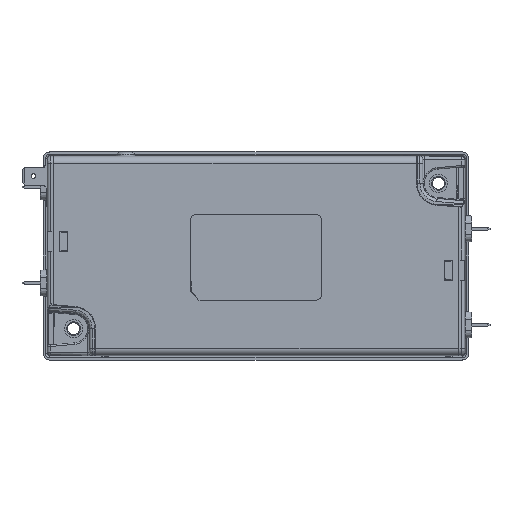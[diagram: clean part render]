
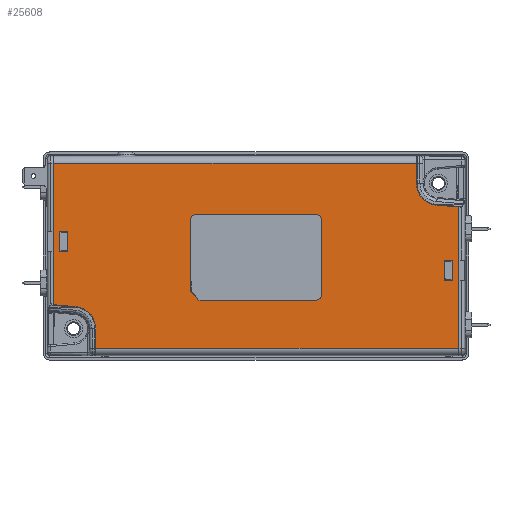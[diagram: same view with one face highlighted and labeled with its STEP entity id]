
A CAD part, top view. The second image highlights one B-rep face of the part: STEP entity #25608.
In plain terms, the highlighted planar face has unit normal (0, 0, 1).
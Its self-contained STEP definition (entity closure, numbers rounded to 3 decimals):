
#914=FACE_BOUND('',#3752,.T.);
#915=FACE_BOUND('',#3753,.T.);
#916=FACE_BOUND('',#3754,.T.);
#999=CIRCLE('',#27085,2.);
#1001=CIRCLE('',#27089,2.);
#1003=CIRCLE('',#27093,2.);
#1004=CIRCLE('',#27099,7.5);
#1005=CIRCLE('',#27100,7.5);
#2287=FACE_OUTER_BOUND('',#3751,.T.);
#3751=EDGE_LOOP('',(#16010,#16011,#16012,#16013,#16014,#16015,#16016,#16017,
#16018,#16019,#16020,#16021));
#3752=EDGE_LOOP('',(#16022,#16023,#16024,#16025));
#3753=EDGE_LOOP('',(#16026,#16027,#16028,#16029));
#3754=EDGE_LOOP('',(#16030,#16031,#16032,#16033,#16034,#16035,#16036,#16037,
#16038,#16039));
#5297=LINE('',#37303,#7613);
#5301=LINE('',#37315,#7617);
#5305=LINE('',#37326,#7621);
#5309=LINE('',#37334,#7625);
#5312=LINE('',#37338,#7628);
#5313=LINE('',#37343,#7629);
#5314=LINE('',#37345,#7630);
#5315=LINE('',#37349,#7631);
#5316=LINE('',#37351,#7632);
#5317=LINE('',#37353,#7633);
#5318=LINE('',#37355,#7634);
#5319=LINE('',#37357,#7635);
#5320=LINE('',#37361,#7636);
#5321=LINE('',#37363,#7637);
#5322=LINE('',#37364,#7638);
#5323=LINE('',#37367,#7639);
#5324=LINE('',#37369,#7640);
#5325=LINE('',#37371,#7641);
#5326=LINE('',#37372,#7642);
#5327=LINE('',#37375,#7643);
#5328=LINE('',#37377,#7644);
#5329=LINE('',#37379,#7645);
#5330=LINE('',#37380,#7646);
#5331=LINE('',#37381,#7647);
#5332=LINE('',#37382,#7648);
#7613=VECTOR('',#29728,10.);
#7617=VECTOR('',#29740,10.);
#7621=VECTOR('',#29752,10.);
#7625=VECTOR('',#29758,10.);
#7628=VECTOR('',#29763,10.);
#7629=VECTOR('',#29768,10.);
#7630=VECTOR('',#29769,10.);
#7631=VECTOR('',#29772,10.);
#7632=VECTOR('',#29773,10.);
#7633=VECTOR('',#29774,10.);
#7634=VECTOR('',#29775,10.);
#7635=VECTOR('',#29776,10.);
#7636=VECTOR('',#29779,10.);
#7637=VECTOR('',#29780,10.);
#7638=VECTOR('',#29781,10.);
#7639=VECTOR('',#29782,10.);
#7640=VECTOR('',#29783,10.);
#7641=VECTOR('',#29784,10.);
#7642=VECTOR('',#29785,10.);
#7643=VECTOR('',#29786,10.);
#7644=VECTOR('',#29787,10.);
#7645=VECTOR('',#29788,10.);
#7646=VECTOR('',#29789,10.);
#7647=VECTOR('',#29790,10.);
#7648=VECTOR('',#29791,10.);
#9921=VERTEX_POINT('',#37280);
#9925=VERTEX_POINT('',#37287);
#9926=VERTEX_POINT('',#37289);
#9929=VERTEX_POINT('',#37296);
#9930=VERTEX_POINT('',#37298);
#9931=VERTEX_POINT('',#37302);
#9934=VERTEX_POINT('',#37310);
#9935=VERTEX_POINT('',#37314);
#9938=VERTEX_POINT('',#37322);
#9941=VERTEX_POINT('',#37333);
#9942=VERTEX_POINT('',#37341);
#9943=VERTEX_POINT('',#37342);
#9944=VERTEX_POINT('',#37344);
#9945=VERTEX_POINT('',#37346);
#9946=VERTEX_POINT('',#37348);
#9947=VERTEX_POINT('',#37350);
#9948=VERTEX_POINT('',#37352);
#9949=VERTEX_POINT('',#37354);
#9950=VERTEX_POINT('',#37356);
#9951=VERTEX_POINT('',#37358);
#9952=VERTEX_POINT('',#37360);
#9953=VERTEX_POINT('',#37362);
#9954=VERTEX_POINT('',#37365);
#9955=VERTEX_POINT('',#37366);
#9956=VERTEX_POINT('',#37368);
#9957=VERTEX_POINT('',#37370);
#9958=VERTEX_POINT('',#37373);
#9959=VERTEX_POINT('',#37374);
#9960=VERTEX_POINT('',#37376);
#9961=VERTEX_POINT('',#37378);
#12236=EDGE_CURVE('',#9930,#9929,#999,.T.);
#12238=EDGE_CURVE('',#9931,#9930,#5297,.T.);
#12242=EDGE_CURVE('',#9934,#9931,#1001,.T.);
#12244=EDGE_CURVE('',#9935,#9934,#5301,.T.);
#12248=EDGE_CURVE('',#9938,#9935,#1003,.T.);
#12250=EDGE_CURVE('',#9921,#9938,#5305,.T.);
#12254=EDGE_CURVE('',#9941,#9925,#5309,.T.);
#12257=EDGE_CURVE('',#9929,#9941,#5312,.T.);
#12258=EDGE_CURVE('',#9942,#9943,#5313,.T.);
#12259=EDGE_CURVE('',#9942,#9944,#5314,.T.);
#12260=EDGE_CURVE('',#9944,#9945,#1004,.T.);
#12261=EDGE_CURVE('',#9945,#9946,#5315,.T.);
#12262=EDGE_CURVE('',#9946,#9947,#5316,.T.);
#12263=EDGE_CURVE('',#9948,#9947,#5317,.T.);
#12264=EDGE_CURVE('',#9949,#9948,#5318,.T.);
#12265=EDGE_CURVE('',#9949,#9950,#5319,.T.);
#12266=EDGE_CURVE('',#9950,#9951,#1005,.T.);
#12267=EDGE_CURVE('',#9951,#9952,#5320,.T.);
#12268=EDGE_CURVE('',#9952,#9953,#5321,.T.);
#12269=EDGE_CURVE('',#9943,#9953,#5322,.T.);
#12270=EDGE_CURVE('',#9954,#9955,#5323,.T.);
#12271=EDGE_CURVE('',#9955,#9956,#5324,.T.);
#12272=EDGE_CURVE('',#9956,#9957,#5325,.T.);
#12273=EDGE_CURVE('',#9957,#9954,#5326,.T.);
#12274=EDGE_CURVE('',#9958,#9959,#5327,.T.);
#12275=EDGE_CURVE('',#9959,#9960,#5328,.T.);
#12276=EDGE_CURVE('',#9960,#9961,#5329,.T.);
#12277=EDGE_CURVE('',#9961,#9958,#5330,.T.);
#12278=EDGE_CURVE('',#9925,#9926,#5331,.T.);
#12279=EDGE_CURVE('',#9926,#9921,#5332,.T.);
#16010=ORIENTED_EDGE('',*,*,#12258,.F.);
#16011=ORIENTED_EDGE('',*,*,#12259,.T.);
#16012=ORIENTED_EDGE('',*,*,#12260,.T.);
#16013=ORIENTED_EDGE('',*,*,#12261,.T.);
#16014=ORIENTED_EDGE('',*,*,#12262,.T.);
#16015=ORIENTED_EDGE('',*,*,#12263,.F.);
#16016=ORIENTED_EDGE('',*,*,#12264,.F.);
#16017=ORIENTED_EDGE('',*,*,#12265,.T.);
#16018=ORIENTED_EDGE('',*,*,#12266,.T.);
#16019=ORIENTED_EDGE('',*,*,#12267,.T.);
#16020=ORIENTED_EDGE('',*,*,#12268,.T.);
#16021=ORIENTED_EDGE('',*,*,#12269,.F.);
#16022=ORIENTED_EDGE('',*,*,#12270,.T.);
#16023=ORIENTED_EDGE('',*,*,#12271,.T.);
#16024=ORIENTED_EDGE('',*,*,#12272,.T.);
#16025=ORIENTED_EDGE('',*,*,#12273,.T.);
#16026=ORIENTED_EDGE('',*,*,#12274,.T.);
#16027=ORIENTED_EDGE('',*,*,#12275,.T.);
#16028=ORIENTED_EDGE('',*,*,#12276,.T.);
#16029=ORIENTED_EDGE('',*,*,#12277,.T.);
#16030=ORIENTED_EDGE('',*,*,#12250,.T.);
#16031=ORIENTED_EDGE('',*,*,#12248,.T.);
#16032=ORIENTED_EDGE('',*,*,#12244,.T.);
#16033=ORIENTED_EDGE('',*,*,#12242,.T.);
#16034=ORIENTED_EDGE('',*,*,#12238,.T.);
#16035=ORIENTED_EDGE('',*,*,#12236,.T.);
#16036=ORIENTED_EDGE('',*,*,#12257,.T.);
#16037=ORIENTED_EDGE('',*,*,#12254,.T.);
#16038=ORIENTED_EDGE('',*,*,#12278,.T.);
#16039=ORIENTED_EDGE('',*,*,#12279,.T.);
#23437=PLANE('',#27098);
#25608=ADVANCED_FACE('',(#2287,#914,#915,#916),#23437,.T.);
#27085=AXIS2_PLACEMENT_3D('',#37299,#29723,#29724);
#27089=AXIS2_PLACEMENT_3D('',#37311,#29735,#29736);
#27093=AXIS2_PLACEMENT_3D('',#37323,#29747,#29748);
#27098=AXIS2_PLACEMENT_3D('',#37340,#29766,#29767);
#27099=AXIS2_PLACEMENT_3D('',#37347,#29770,#29771);
#27100=AXIS2_PLACEMENT_3D('',#37359,#29777,#29778);
#29723=DIRECTION('center_axis',(0.,0.,-1.));
#29724=DIRECTION('ref_axis',(0.707,-0.707,0.));
#29728=DIRECTION('',(0.,-1.,0.));
#29735=DIRECTION('center_axis',(0.,0.,-1.));
#29736=DIRECTION('ref_axis',(0.707,0.707,0.));
#29740=DIRECTION('',(1.,0.,0.));
#29747=DIRECTION('center_axis',(0.,0.,-1.));
#29748=DIRECTION('ref_axis',(-0.707,0.707,0.));
#29752=DIRECTION('',(0.,1.,0.));
#29758=DIRECTION('',(-0.707,0.707,0.));
#29763=DIRECTION('',(-1.,0.,0.));
#29766=DIRECTION('center_axis',(0.,0.,1.));
#29767=DIRECTION('ref_axis',(0.,-1.,0.));
#29768=DIRECTION('',(-0.676,0.737,0.));
#29769=DIRECTION('',(0.996,-0.087,0.));
#29770=DIRECTION('center_axis',(0.,0.,-1.));
#29771=DIRECTION('ref_axis',(1.,0.,0.));
#29772=DIRECTION('',(0.,-1.,0.));
#29773=DIRECTION('',(1.,0.,0.));
#29774=DIRECTION('',(0.,-1.,0.));
#29775=DIRECTION('',(0.676,-0.737,0.));
#29776=DIRECTION('',(-0.996,0.087,0.));
#29777=DIRECTION('center_axis',(0.,0.,-1.));
#29778=DIRECTION('ref_axis',(-1.,0.,0.));
#29779=DIRECTION('',(0.,1.,0.));
#29780=DIRECTION('',(-1.,0.,0.));
#29781=DIRECTION('',(0.,1.,0.));
#29782=DIRECTION('',(1.,0.,0.));
#29783=DIRECTION('',(0.,-1.,0.));
#29784=DIRECTION('',(-1.,0.,0.));
#29785=DIRECTION('',(0.,1.,0.));
#29786=DIRECTION('',(-1.,0.,0.));
#29787=DIRECTION('',(0.,1.,0.));
#29788=DIRECTION('',(1.,0.,0.));
#29789=DIRECTION('',(0.,-1.,0.));
#29790=DIRECTION('',(-0.707,0.707,0.));
#29791=DIRECTION('',(0.,1.,0.));
#37280=CARTESIAN_POINT('',(-3.,-9.025,34.9));
#37287=CARTESIAN_POINT('',(-0.525,-15.,34.9));
#37289=CARTESIAN_POINT('',(-3.,-12.525,34.9));
#37296=CARTESIAN_POINT('',(41.,-15.525,34.9));
#37298=CARTESIAN_POINT('',(43.,-13.525,34.9));
#37299=CARTESIAN_POINT('Origin',(41.,-13.525,34.9));
#37302=CARTESIAN_POINT('',(43.,12.475,34.9));
#37303=CARTESIAN_POINT('',(43.,7.237,34.9));
#37310=CARTESIAN_POINT('',(41.,14.475,34.9));
#37311=CARTESIAN_POINT('Origin',(41.,12.475,34.9));
#37314=CARTESIAN_POINT('',(-1.,14.475,34.9));
#37315=CARTESIAN_POINT('',(8.5,14.475,34.9));
#37322=CARTESIAN_POINT('',(-3.,12.475,34.9));
#37323=CARTESIAN_POINT('Origin',(-1.,12.475,34.9));
#37326=CARTESIAN_POINT('',(-3.,-7.763,34.9));
#37333=CARTESIAN_POINT('',(0.,-15.525,34.9));
#37334=CARTESIAN_POINT('',(0.369,-15.894,34.9));
#37338=CARTESIAN_POINT('',(31.5,-15.525,34.9));
#37340=CARTESIAN_POINT('Origin',(20.,0.,34.9));
#37341=CARTESIAN_POINT('',(-50.502,-17.185,34.9));
#37342=CARTESIAN_POINT('',(-51.,-16.641,34.9));
#37343=CARTESIAN_POINT('',(-38.817,-29.937,34.9));
#37344=CARTESIAN_POINT('',(-43.146,-17.829,34.9));
#37345=CARTESIAN_POINT('',(-16.514,-20.159,34.9));
#37346=CARTESIAN_POINT('',(-36.3,-25.3,34.9));
#37347=CARTESIAN_POINT('Origin',(-43.8,-25.3,34.9));
#37348=CARTESIAN_POINT('',(-36.3,-32.5,34.9));
#37349=CARTESIAN_POINT('',(-36.3,-12.65,34.9));
#37350=CARTESIAN_POINT('',(91.,-32.5,34.9));
#37351=CARTESIAN_POINT('',(-15.5,-32.5,34.9));
#37352=CARTESIAN_POINT('',(91.,16.641,34.9));
#37353=CARTESIAN_POINT('',(91.,-35.,34.9));
#37354=CARTESIAN_POINT('',(90.502,17.185,34.9));
#37355=CARTESIAN_POINT('',(78.817,29.937,34.9));
#37356=CARTESIAN_POINT('',(83.146,17.829,34.9));
#37357=CARTESIAN_POINT('',(56.514,20.159,34.9));
#37358=CARTESIAN_POINT('',(76.3,25.3,34.9));
#37359=CARTESIAN_POINT('Origin',(83.8,25.3,34.9));
#37360=CARTESIAN_POINT('',(76.3,32.5,34.9));
#37361=CARTESIAN_POINT('',(76.3,12.65,34.9));
#37362=CARTESIAN_POINT('',(-51.,32.5,34.9));
#37363=CARTESIAN_POINT('',(55.5,32.5,34.9));
#37364=CARTESIAN_POINT('',(-51.,35.,34.9));
#37365=CARTESIAN_POINT('',(-49.,8.5,34.9));
#37366=CARTESIAN_POINT('',(-46.,8.5,34.9));
#37367=CARTESIAN_POINT('',(-14.5,8.5,34.9));
#37368=CARTESIAN_POINT('',(-46.,1.5,34.9));
#37369=CARTESIAN_POINT('',(-46.,2.5,34.9));
#37370=CARTESIAN_POINT('',(-49.,1.5,34.9));
#37371=CARTESIAN_POINT('',(-13.,1.5,34.9));
#37372=CARTESIAN_POINT('',(-49.,0.75,34.9));
#37373=CARTESIAN_POINT('',(89.,-8.5,34.9));
#37374=CARTESIAN_POINT('',(86.,-8.5,34.9));
#37375=CARTESIAN_POINT('',(54.5,-8.5,34.9));
#37376=CARTESIAN_POINT('',(86.,-1.5,34.9));
#37377=CARTESIAN_POINT('',(86.,-2.5,34.9));
#37378=CARTESIAN_POINT('',(89.,-1.5,34.9));
#37379=CARTESIAN_POINT('',(53.,-1.5,34.9));
#37380=CARTESIAN_POINT('',(89.,-0.75,34.9));
#37381=CARTESIAN_POINT('',(0.856,-16.381,34.9));
#37382=CARTESIAN_POINT('',(-3.,-6.263,34.9));
